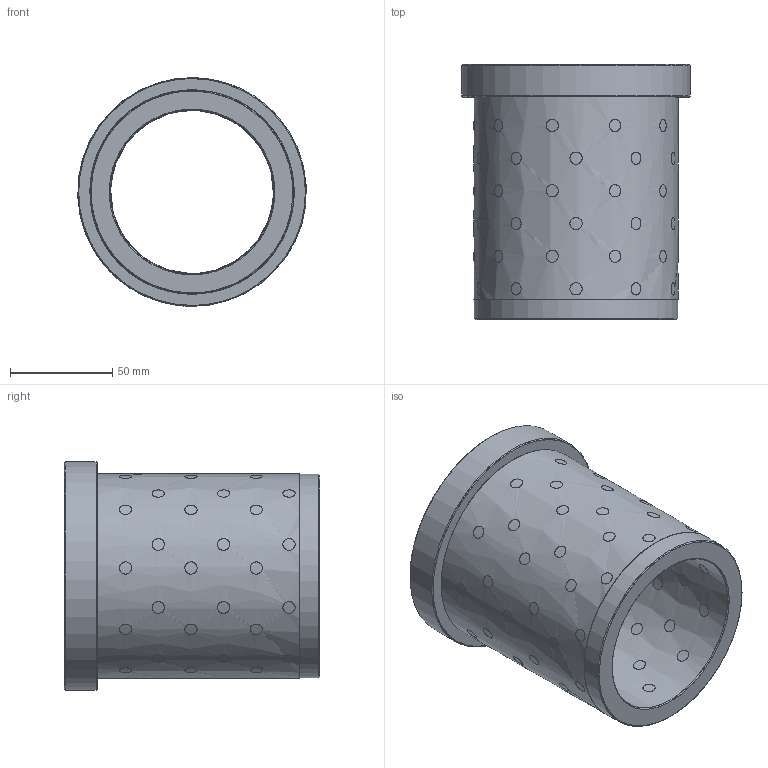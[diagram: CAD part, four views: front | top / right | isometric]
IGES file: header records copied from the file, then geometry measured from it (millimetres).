
Start section: Missler Software BP 521, 31674 Labege Cedex, France Tel   : +33 (0)5 61 00 03 00 Fax   : +33 (0)5 61 00 03 03 Email : sup.topsolid@topsolid.com
Global section: file name: D:\Cuma\25 06 2009\D30.03\D30.03_80125.igs; native system: TopSolid v605250 Missler Software; preprocessor: IGES preprocessor v100000; date: 030203.151052; units: millimetre
Bounding box: 111.87 x 125 x 112 mm (x, y, z)
Surface area: 117024.7 mm2 (no closed solid volume)
Topology: 0 solids, 0 shells, 434 faces, 10659 edges, 10380 vertices
Faces by surface type: bspline 434
